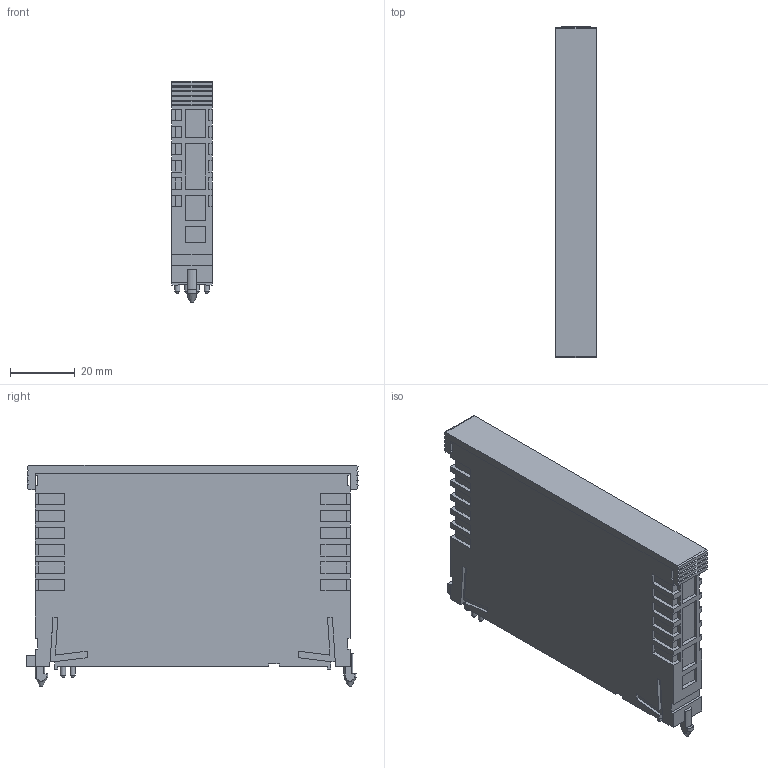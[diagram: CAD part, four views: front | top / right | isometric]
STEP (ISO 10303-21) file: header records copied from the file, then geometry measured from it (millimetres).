
FILE_DESCRIPTION (( 'STEP AP214' ), '1' );
FILE_NAME ('X-Dias Einzelmodul Export20250311.STEP', '2025-03-11T16:03:37', ( '' ), ( '' ), 'SwSTEP 2.0', 'SolidWorks 2020', '' );
FILE_SCHEMA (( 'AUTOMOTIVE_DESIGN' ));
Length unit declared in the file: millimetre
Products named in the file (1): X-Dias Einzelmodul Export20250311
Bounding box: 12.45 x 102.2 x 68.1 mm (x, y, z)
Volume: 71138.5 mm3; surface area: 21929.3 mm2
Topology: 2 solids, 2 shells, 705 faces, 1743 edges, 1101 vertices
Faces by surface type: plane 679, cylinder 14, cone 12
Full cylindrical faces by diameter (mm): 1.6 x8
Entity records: 27562 total; most frequent: CARTESIAN_POINT 3673, ORIENTED_EDGE 3446, DIRECTION 3162, EDGE_CURVE 1723, VECTOR 1674, LINE 1674, VERTEX_POINT 1099, EDGE_LOOP 782
